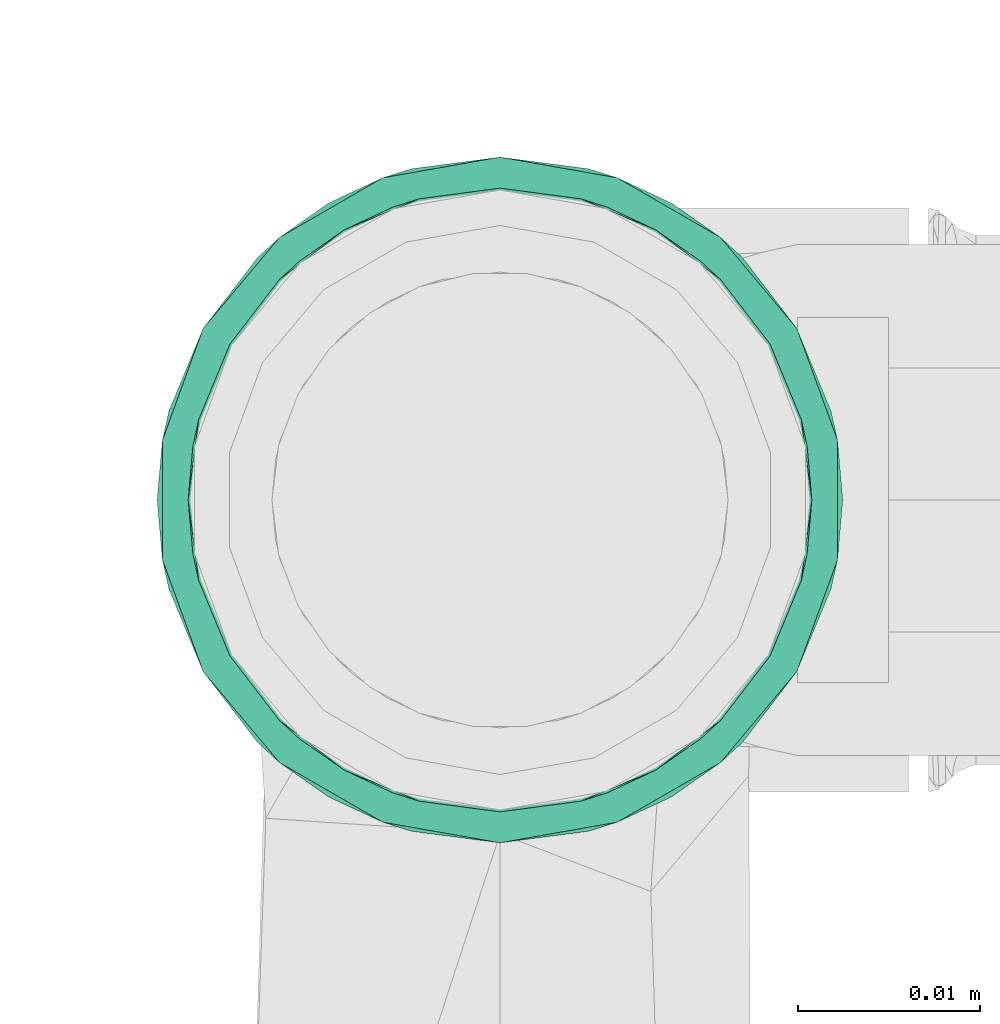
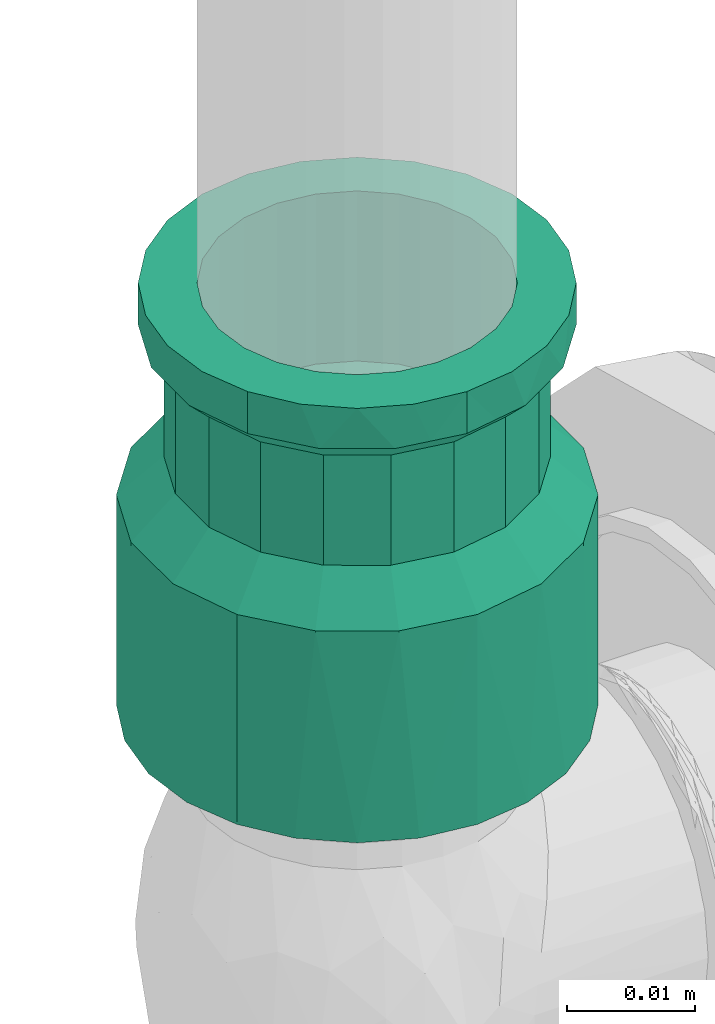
# One storey, part 363 of 589: 1 flow fitting.
"""IFC2X3 building model written with IfcOpenShell, lengths in millimetres."""

from ifc_helpers import new_model, entity, si_unit, converted_unit, derived_unit, direction, frame, origin, place, context, subcontext, project, spatial, faceted_brep, source, transform, mapped, material, type_object, type_shapes, element, save


model = new_model("IFC2X3")

# Units and contexts
model_context = context("Model", 3, precision=0.01, world=origin(), true_north=direction((6.123031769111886e-17, 1.0)))
body_context = subcontext(model_context, "Body", "Model", "MODEL_VIEW")
ifc_project = project(units=[si_unit("LENGTHUNIT", "METRE", prefix="MILLI"), si_unit("AREAUNIT", "SQUARE_METRE"), si_unit("VOLUMEUNIT", "CUBIC_METRE"), converted_unit("PLANEANGLEUNIT", "DEGREE", entity("IfcRatioMeasure", 0.017453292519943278), si_unit("PLANEANGLEUNIT", "RADIAN"), dimensions=[0, 0, 0, 0, 0, 0, 0]), si_unit("MASSUNIT", "GRAM", prefix="KILO"), derived_unit("MASSDENSITYUNIT", [(si_unit("MASSUNIT", "GRAM", prefix="KILO"), 1), (si_unit("LENGTHUNIT", "METRE"), -3)]), derived_unit("IONCONCENTRATIONUNIT", [(si_unit("MASSUNIT", "GRAM", prefix="KILO"), 1), (si_unit("LENGTHUNIT", "METRE"), -3)]), derived_unit("MOMENTOFINERTIAUNIT", [(si_unit("LENGTHUNIT", "METRE"), 4)]), si_unit("TIMEUNIT", "SECOND"), si_unit("FREQUENCYUNIT", "HERTZ"), si_unit("THERMODYNAMICTEMPERATUREUNIT", "DEGREE_CELSIUS"), derived_unit("THERMALTRANSMITTANCEUNIT", [(si_unit("MASSUNIT", "GRAM", prefix="KILO"), 1), (si_unit("THERMODYNAMICTEMPERATUREUNIT", "KELVIN"), -1), (si_unit("TIMEUNIT", "SECOND"), -3)]), derived_unit("THERMALCONDUCTANCEUNIT", [(si_unit("MASSUNIT", "GRAM", prefix="KILO"), 1), (si_unit("THERMODYNAMICTEMPERATUREUNIT", "KELVIN"), -1), (si_unit("TIMEUNIT", "SECOND"), -3), (si_unit("LENGTHUNIT", "METRE"), 1)]), derived_unit("VOLUMETRICFLOWRATEUNIT", [(si_unit("LENGTHUNIT", "METRE"), 3), (si_unit("TIMEUNIT", "SECOND"), -1)]), derived_unit("MASSFLOWRATEUNIT", [(si_unit("MASSUNIT", "GRAM", prefix="KILO"), 1), (si_unit("TIMEUNIT", "SECOND"), -1)]), derived_unit("ROTATIONALFREQUENCYUNIT", [(si_unit("TIMEUNIT", "SECOND"), -1)]), si_unit("ELECTRICCURRENTUNIT", "AMPERE"), si_unit("ELECTRICVOLTAGEUNIT", "VOLT"), si_unit("POWERUNIT", "WATT"), si_unit("FORCEUNIT", "NEWTON", prefix="KILO"), si_unit("ILLUMINANCEUNIT", "LUX"), si_unit("LUMINOUSFLUXUNIT", "LUMEN"), si_unit("LUMINOUSINTENSITYUNIT", "CANDELA"), derived_unit("USERDEFINED", [(si_unit("MASSUNIT", "GRAM", prefix="KILO"), -1), (si_unit("LENGTHUNIT", "METRE"), -2), (si_unit("TIMEUNIT", "SECOND"), 3), (si_unit("LUMINOUSFLUXUNIT", "LUMEN"), 1)]), derived_unit("USERDEFINED", [(si_unit("MASSUNIT", "GRAM", prefix="KILO"), 1), (si_unit("TIMEUNIT", "SECOND"), -3), (si_unit("LENGTHUNIT", "METRE"), 3), (si_unit("ELECTRICCURRENTUNIT", "AMPERE"), -2)]), derived_unit("SOUNDPOWERUNIT", [(si_unit("MASSUNIT", "GRAM", prefix="KILO"), 1), (si_unit("TIMEUNIT", "SECOND"), -3), (si_unit("LENGTHUNIT", "METRE"), 2)]), derived_unit("SOUNDPRESSUREUNIT", [(si_unit("MASSUNIT", "GRAM", prefix="KILO"), 1), (si_unit("LENGTHUNIT", "METRE"), -1), (si_unit("TIMEUNIT", "SECOND"), -2)]), derived_unit("LINEARVELOCITYUNIT", [(si_unit("LENGTHUNIT", "METRE"), 1), (si_unit("TIMEUNIT", "SECOND"), -1)]), si_unit("PRESSUREUNIT", "PASCAL"), derived_unit("USERDEFINED", [(si_unit("MASSUNIT", "GRAM", prefix="KILO"), 1), (si_unit("LENGTHUNIT", "METRE"), -2), (si_unit("TIMEUNIT", "SECOND"), -2)]), derived_unit("LINEARFORCEUNIT", [(si_unit("MASSUNIT", "GRAM", prefix="KILO"), 1), (si_unit("TIMEUNIT", "SECOND"), -2)]), derived_unit("PLANARFORCEUNIT", [(si_unit("MASSUNIT", "GRAM", prefix="KILO"), 1), (si_unit("LENGTHUNIT", "METRE"), -1), (si_unit("TIMEUNIT", "SECOND"), -2)]), derived_unit("SPECIFICHEATCAPACITYUNIT", [(si_unit("THERMODYNAMICTEMPERATUREUNIT", "KELVIN"), -1), (si_unit("LENGTHUNIT", "METRE"), 2), (si_unit("TIMEUNIT", "SECOND"), -2)]), derived_unit("HEATINGVALUEUNIT", [(si_unit("LENGTHUNIT", "METRE"), 2), (si_unit("TIMEUNIT", "SECOND"), -2)]), derived_unit("VAPORPERMEABILITYUNIT", [(si_unit("LENGTHUNIT", "METRE"), -1), (si_unit("TIMEUNIT", "SECOND"), 1)]), derived_unit("DYNAMICVISCOSITYUNIT", [(si_unit("MASSUNIT", "GRAM", prefix="KILO"), 1), (si_unit("TIMEUNIT", "SECOND"), -1), (si_unit("LENGTHUNIT", "METRE"), -1)]), derived_unit("THERMALEXPANSIONCOEFFICIENTUNIT", [(si_unit("THERMODYNAMICTEMPERATUREUNIT", "KELVIN"), -1)]), derived_unit("MODULUSOFELASTICITYUNIT", [(si_unit("MASSUNIT", "GRAM", prefix="KILO"), 1), (si_unit("LENGTHUNIT", "METRE"), -1), (si_unit("TIMEUNIT", "SECOND"), -2)]), derived_unit("ISOTHERMALMOISTURECAPACITYUNIT", [(si_unit("LENGTHUNIT", "METRE"), 3), (si_unit("MASSUNIT", "GRAM", prefix="KILO"), -1)]), derived_unit("MOISTUREDIFFUSIVITYUNIT", [(si_unit("TIMEUNIT", "SECOND"), -1), (si_unit("LENGTHUNIT", "METRE"), 2)])], contexts=[model_context])

# Site, building, storey
site_placement = place(None, origin())
site = spatial("IfcSite", under=ifc_project, at=site_placement, Name="Default", CompositionType="ELEMENT")
building_placement = place(site_placement, origin())
building = spatial("IfcBuilding", under=site, at=building_placement, CompositionType="ELEMENT")
storey_placement = place(building_placement, frame((0.0, 0.0, 100.0)))
storey = spatial("IfcBuildingStorey", under=building, at=storey_placement, Name="TÉRREO", CompositionType="ELEMENT", Elevation=100.0)

# Flow fitting
ifc_material = material(Name="PVC Azul")
pipe_fitting_type = type_object("IfcPipeFittingType", Name="PVC Marrom Soldável_Luva com Bucha de Latão Aninhado_Rodrigo MEP:Luva com bucha de latão_20x1/2''_ 25x1/2''_ 25x3/4'' _ 32x1''", PredefinedType="NOTDEFINED", material=ifc_material)
shared_shape = source(origin(), body_context, "Body", "Brep", [
    faceted_brep([(0.0, 6.249999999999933, -10.825317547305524), (0.0, 13.2936074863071, -13.293607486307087), (0.0, 9.400000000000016, -16.28127759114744), (0.0, 8.838834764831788, -8.838834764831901), (0.0, 3.235238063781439, -12.074072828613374), (0.0, 16.281277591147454, -9.399999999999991), (0.0, 10.82531754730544, -6.250000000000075), (0.0, 12.074072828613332, -3.2352380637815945), (0.0, 18.159405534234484, -4.865798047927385), (0.0, 12.5, 0.0), (0.0, 18.8, 0.0), (0.0, 12.074072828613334, 3.2352380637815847), (0.0, 18.159405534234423, 4.8657980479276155), (0.0, 10.825317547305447, 6.250000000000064), (0.0, 16.281277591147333, 9.400000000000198), (0.0, 8.838834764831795, 8.838834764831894), (0.0, 13.293607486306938, 13.29360748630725), (0.0, 6.249999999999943, 10.825317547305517), (0.0, 9.399999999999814, 16.281277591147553), (0.0, 3.23523806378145, 12.07407282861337), (0.0, 4.865798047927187, 18.159405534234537), (0.0, 0.0, 12.5), (0.0, 0.0, 18.8), (0.0, -3.2352380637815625, 12.074072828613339), (0.0, -4.865798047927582, 18.159405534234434), (0.0, -6.2500000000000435, 10.825317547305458), (0.0, -9.400000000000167, 16.28127759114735), (0.0, -8.838834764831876, 8.838834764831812), (0.0, -13.29360748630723, 13.293607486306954), (0.0, -10.825317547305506, 6.249999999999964), (0.0, -16.281277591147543, 9.399999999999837), (0.0, -18.159405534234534, 4.865798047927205), (0.0, -12.074072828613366, 3.2352380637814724), (0.0, -18.8, 0.0), (0.0, -12.5, 0.0), (0.0, -18.15940553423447, -4.865798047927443), (0.0, -12.074072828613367, -3.2352380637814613), (0.0, -16.281277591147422, -9.400000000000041), (0.0, -10.825317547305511, -6.249999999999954), (0.0, -13.293607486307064, -13.293607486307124), (0.0, -8.838834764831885, -8.838834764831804), (0.0, -9.399999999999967, -16.281277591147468), (0.0, -6.250000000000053, -10.825317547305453), (0.0, -4.86579804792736, -18.159405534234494), (0.0, -3.2352380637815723, -12.074072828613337), (0.0, 0.0, -18.8), (0.0, 0.0, -12.5), (0.0, 4.865798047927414, -18.15940553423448), (20.0, -18.233021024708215, 3.2152355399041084), (20.0, -17.66604204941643, 6.4304710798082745), (20.0, -14.400961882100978, 12.08520983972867), (20.0, -11.899800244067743, 14.183636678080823), (20.0, -16.0335019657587, 9.257840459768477), (20.0, -3.2625216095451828, 18.514749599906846), (20.0, -6.330580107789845, 17.39840655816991), (20.0, -18.8, 0.0), (20.0, -9.398638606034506, 16.282063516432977), (20.0, 17.667654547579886, 6.4260394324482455), (20.0, 6.334944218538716, 17.39681801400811), (20.0, 9.402722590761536, 16.279705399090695), (20.0, 3.267165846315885, 18.513930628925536), (20.0, 11.903357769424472, 14.180651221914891), (20.0, 14.403992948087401, 12.081597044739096), (20.0, 18.8, 0.0), (20.0, 16.03582374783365, 9.253818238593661), (20.0, 0.002322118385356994, 18.51434011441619), (20.0, 17.66765454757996, -6.426039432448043), (20.0, 14.403992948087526, -12.081597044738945), (20.0, 11.903357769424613, -14.180651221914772), (20.0, 16.035823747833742, -9.253818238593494), (20.0, 3.2671658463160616, -18.513930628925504), (20.0, 6.334944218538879, -17.39681801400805), (20.0, -18.233021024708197, -3.2152355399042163), (20.0, 9.402722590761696, -16.2797053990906), (20.0, -3.2625216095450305, -18.514749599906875), (20.0, -6.330580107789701, -17.398406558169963), (20.0, -9.398638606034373, -16.282063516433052), (20.0, -11.899800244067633, -14.183636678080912), (20.0, -17.66604204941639, -6.43047107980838), (20.0, -16.033501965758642, -9.257840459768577), (20.0, -14.400961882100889, -12.085209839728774), (20.0, 0.0023221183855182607, -18.51434011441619), (23.699999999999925, -15.09999999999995, 0.0), (23.69999999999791, -14.19050976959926, 5.16134018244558), (23.699999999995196, -2.6241598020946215, 14.870231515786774), (23.699999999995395, -5.088173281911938, 13.97297617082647), (23.699999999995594, -7.552186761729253, 13.075720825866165), (23.699999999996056, -9.560675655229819, 11.38977837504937), (23.699999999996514, -11.569164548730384, 9.703835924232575), (23.699999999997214, -12.879837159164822, 7.432588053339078), (23.699999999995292, -0.0018651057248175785, 14.870560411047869), (23.69999999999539, 2.620429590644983, 14.870889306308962), (23.699999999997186, 11.566730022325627, 9.706737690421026), (23.699999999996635, 9.557818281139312, 11.392176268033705), (23.699999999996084, 7.548906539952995, 13.077614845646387), (23.699999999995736, 5.084668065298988, 13.974252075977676), (23.699999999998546, 14.189214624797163, 5.164899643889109), (23.699999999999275, 14.644607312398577, 2.582449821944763), (23.69999999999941, 14.732236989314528, 2.0855177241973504), (23.700000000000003, 15.099999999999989, 0.0), (23.699999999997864, 12.877972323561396, 7.4358186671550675), (23.69999999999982, 14.644607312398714, -2.5824498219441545), (23.699999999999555, 14.18921462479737, -5.164899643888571), (23.699999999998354, 2.620429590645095, -14.87088930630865), (23.699999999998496, 5.084668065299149, -13.97425207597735), (23.69999999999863, 7.548906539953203, -13.077614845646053), (23.69999999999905, 11.566730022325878, -9.706737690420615), (23.69999999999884, 9.557818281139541, -11.392176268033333), (23.6999999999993, -14.190509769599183, -5.1613401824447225), (23.699999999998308, -0.0018651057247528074, -14.870560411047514), (23.699999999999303, 12.877972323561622, -7.435818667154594), (23.699999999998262, -2.6241598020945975, -14.870231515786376), (23.699999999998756, -11.569164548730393, -9.703835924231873), (23.699999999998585, -9.56067565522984, -11.389778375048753), (23.69999999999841, -7.552186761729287, -13.075720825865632), (23.699999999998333, -5.088173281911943, -13.972976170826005), (23.69999999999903, -12.879837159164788, -7.432588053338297), (34.20000000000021, 15.099999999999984, 0.0), (34.20000000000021, 14.732236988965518, -2.0855177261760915), (34.20000000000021, 14.189214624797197, -5.164899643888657), (34.20000000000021, 7.548906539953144, -13.077614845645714), (34.20000000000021, 11.566730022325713, -9.706737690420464), (34.20000000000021, 9.55781828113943, -11.39217626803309), (34.20000000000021, 12.877972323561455, -7.43581866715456), (34.20000000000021, 5.084668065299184, -13.974252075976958), (34.20000000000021, 2.620429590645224, -14.870889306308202), (34.20000000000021, -0.0018651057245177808, -14.870560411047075), (34.20000000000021, -2.6241598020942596, -14.870231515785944), (34.20000000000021, -7.552186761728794, -13.075720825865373), (34.20000000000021, -5.0881732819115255, -13.97297617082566), (34.20000000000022, -11.56916454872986, -9.70383592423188), (34.200000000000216, -9.560675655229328, -11.389778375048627), (34.20000000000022, -14.19050976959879, -5.161340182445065), (34.20000000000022, -12.879837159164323, -7.432588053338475), (34.20000000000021, -15.100000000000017, 0.0), (34.199999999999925, -14.190509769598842, 5.161340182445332), (34.19999999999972, -11.569164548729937, 9.703835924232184), (34.199999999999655, -9.56067565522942, 11.389778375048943), (34.19999999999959, -7.552186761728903, 13.0757208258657), (34.199999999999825, -12.879837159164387, 7.432588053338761), (34.19999999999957, -5.08817328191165, 13.972976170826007), (34.19999999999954, -2.624159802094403, 14.87023151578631), (34.19999999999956, -0.0018651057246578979, 14.870560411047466), (34.19999999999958, 2.6204295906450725, 14.870889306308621), (34.199999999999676, 7.548906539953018, 13.077614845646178), (34.199999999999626, 5.084668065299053, 13.974252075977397), (34.20000000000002, 14.18921462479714, 5.164899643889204), (34.20000000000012, 14.644607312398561, 2.582449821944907), (34.19999999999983, 11.566730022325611, 9.706737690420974), (34.199999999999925, 12.877972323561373, 7.435818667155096), (34.199999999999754, 9.557818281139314, 11.392176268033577), (36.200000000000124, 16.068580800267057, 5.848992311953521), (36.199999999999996, 16.584290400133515, 2.9244961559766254), (36.20000000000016, 16.698266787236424, 2.2781566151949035), (36.20000000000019, 17.099999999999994, 0.0), (36.20000000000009, 14.583664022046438, 8.420695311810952), (36.20000000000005, 13.098747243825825, 10.992398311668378), (36.200000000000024, 10.823754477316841, 12.90107378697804), (36.2, 8.548761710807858, 14.809749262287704), (36.19999999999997, 2.9675063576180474, 16.840543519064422), (36.19999999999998, 5.758134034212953, 15.825146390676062), (36.19999999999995, -2.9717306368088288, 16.839798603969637), (36.19999999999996, -0.0021121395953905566, 16.84017106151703), (36.199999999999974, -8.55247639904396, 14.807604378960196), (36.19999999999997, -5.762103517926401, 15.823701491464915), (36.20000000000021, -17.100000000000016, 0.0), (36.2000000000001, -16.070047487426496, 5.844961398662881), (36.20000000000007, -14.585775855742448, 8.417036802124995), (36.200000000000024, -13.101504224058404, 10.989112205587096), (36.2, -10.826990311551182, 12.898358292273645), (36.20000000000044, -16.07004748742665, -5.844961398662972), (36.20000000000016, 2.9675063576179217, -16.84054351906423), (36.200000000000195, -0.0021121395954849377, -16.84017106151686), (36.20000000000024, -2.9717306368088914, -16.839798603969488), (36.200000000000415, -14.58577585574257, -8.417036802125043), (36.20000000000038, -13.10150422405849, -10.989112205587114), (36.20000000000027, -5.7621035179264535, -15.823701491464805), (36.20000000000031, -8.552476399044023, -14.807604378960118), (36.20000000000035, -10.826990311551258, -12.898358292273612), (36.20000000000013, 5.758134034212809, -15.825146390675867), (36.2000000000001, 8.548761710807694, -14.809749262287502), (36.200000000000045, 16.58429040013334, -2.924496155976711), (36.200000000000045, 16.068580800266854, -5.848992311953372), (36.20000000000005, 14.583664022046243, -8.420695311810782), (36.20000000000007, 13.098747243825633, -10.992398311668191), (36.20000000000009, 10.823754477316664, -12.901073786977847), (40.200000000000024, -6.2500000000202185, -10.825317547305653), (40.200000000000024, -12.091525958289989, -12.091525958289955), (40.200000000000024, -8.550000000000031, -14.809034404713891), (40.200000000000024, -8.838834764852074, -8.838834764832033), (40.200000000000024, -3.2352380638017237, -12.074072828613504), (40.200000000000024, -14.809034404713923, -8.549999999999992), (40.200000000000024, -10.825317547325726, -6.250000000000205), (40.200000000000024, -12.074072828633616, -3.235238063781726), (40.200000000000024, -16.517331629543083, -4.4258056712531), (40.200000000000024, -12.500000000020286, 0.0), (40.200000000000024, -17.100000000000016, 0.0), (40.200000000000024, -12.074072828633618, 3.2352380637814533), (40.200000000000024, -16.51733162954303, 4.42580567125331), (40.200000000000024, -10.825317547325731, 6.2499999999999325), (40.200000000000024, -14.809034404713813, 8.550000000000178), (40.200000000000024, -8.83883476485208, 8.838834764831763), (40.200000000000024, -12.091525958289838, 12.091525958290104), (40.200000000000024, -6.250000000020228, 10.825317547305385), (40.200000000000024, -8.549999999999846, 14.809034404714), (40.200000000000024, -3.235238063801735, 12.074072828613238), (40.200000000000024, -4.425805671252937, 16.51733162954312), (40.200000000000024, 0.0, 12.49999999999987), (40.200000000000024, 0.0, 17.1), (40.200000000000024, 3.235238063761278, 12.07407282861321), (40.200000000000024, 4.425805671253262, 16.51733162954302), (40.200000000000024, 6.249999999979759, 10.825317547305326), (40.200000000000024, 8.550000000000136, 14.809034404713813), (40.200000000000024, 8.838834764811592, 8.838834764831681), (40.200000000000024, 12.091525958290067, 12.091525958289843), (40.200000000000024, 10.825317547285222, 6.249999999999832), (40.200000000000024, 14.809034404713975, 8.549999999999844), (40.200000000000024, 16.517331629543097, 4.425805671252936), (40.200000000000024, 12.07407282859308, 3.2352380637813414), (40.200000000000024, 17.099999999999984, 0.0), (40.200000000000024, 12.499999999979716, 0.0), (40.200000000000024, 16.517331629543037, -4.425805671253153), (40.200000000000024, 12.074072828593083, -3.2352380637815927), (40.200000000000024, 14.809034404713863, -8.550000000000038), (40.200000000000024, 10.825317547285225, -6.250000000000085), (40.200000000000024, 12.09152595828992, -12.09152595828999), (40.200000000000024, 8.838834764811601, -8.838834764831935), (40.200000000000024, 8.549999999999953, -14.80903440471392), (40.200000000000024, 6.249999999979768, -10.825317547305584), (40.200000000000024, 4.425805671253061, -16.517331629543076), (40.200000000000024, 3.2352380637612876, -12.074072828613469), (40.200000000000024, 0.0, -17.1), (40.200000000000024, 0.0, -12.500000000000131), (40.200000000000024, -4.425805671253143, -16.51733162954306), (24.0, 0.0, -12.500000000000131), (24.0, 3.2352380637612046, -12.074072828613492), (24.0, 6.2499999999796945, -10.825317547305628), (24.0, 8.838834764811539, -8.838834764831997), (24.0, 10.825317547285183, -6.250000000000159), (24.0, 12.07407282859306, -3.235238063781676), (24.0, 12.499999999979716, 0.0), (24.0, 12.074072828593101, 3.235238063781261), (24.0, 10.82531754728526, 6.24999999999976), (24.0, 8.83883476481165, 8.83883476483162), (24.0, 6.249999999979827, 10.82531754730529), (24.0, 3.235238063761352, 12.07407282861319), (24.0, 0.0, 12.49999999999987), (24.0, -3.2352380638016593, 12.074072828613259), (24.0, -6.250000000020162, 10.825317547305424), (24.0, -8.838834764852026, 8.838834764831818), (24.0, -10.825317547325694, 6.249999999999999), (24.0, -12.074072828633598, 3.235238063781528), (24.0, -12.500000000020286, 0.0), (24.0, -12.07407282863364, -3.2352380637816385), (24.0, -10.825317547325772, -6.250000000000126), (24.0, -8.838834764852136, -8.83883476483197), (24.0, -6.250000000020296, -10.825317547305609), (24.0, -3.23523806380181, -12.074072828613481), (16.200000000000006, 12.5, 0.0), (16.200000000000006, 12.074072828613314, 3.2352380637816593), (16.200000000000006, 10.825317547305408, 6.250000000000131), (16.200000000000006, 6.2499999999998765, 10.825317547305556), (16.200000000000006, 8.838834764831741, 8.83883476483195), (16.200000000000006, 3.2352380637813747, 12.07407282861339), (16.200000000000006, 0.0, 12.5), (16.200000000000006, -3.235238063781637, 12.074072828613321), (16.200000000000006, -6.250000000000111, 10.825317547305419), (16.200000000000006, -8.838834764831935, 8.838834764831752), (16.200000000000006, -12.074072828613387, 3.235238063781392), (16.200000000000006, -10.825317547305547, 6.249999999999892), (16.200000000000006, -12.5, 0.0), (16.200000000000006, -12.074072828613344, -3.2352380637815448), (16.200000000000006, -10.825317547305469, -6.2500000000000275), (16.200000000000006, -6.24999999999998, -10.825317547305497), (16.200000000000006, -8.838834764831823, -8.838834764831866), (16.200000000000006, -3.2352380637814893, -12.07407282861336), (16.200000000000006, 0.0, -12.5), (16.200000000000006, 3.2352380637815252, -12.07407282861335), (16.200000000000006, 6.250000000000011, -10.82531754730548), (16.200000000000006, 8.83883476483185, -8.838834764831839), (16.200000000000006, 12.074072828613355, -3.2352380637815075), (16.200000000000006, 10.825317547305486, -6.249999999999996)], [[[0, 1, 2]], [[3, 1, 0]], [[4, 0, 2]], [[1, 3, 5]], [[5, 3, 6]], [[5, 6, 7]], [[8, 5, 7]], [[9, 8, 7]], [[10, 8, 9]], [[10, 9, 11]], [[12, 10, 11]], [[12, 11, 13]], [[14, 12, 13]], [[14, 13, 15]], [[15, 16, 14]], [[15, 17, 16]], [[18, 16, 17]], [[19, 18, 17]], [[18, 19, 20]], [[21, 20, 19]], [[22, 20, 21]], [[21, 23, 22]], [[24, 22, 23]], [[25, 24, 23]], [[24, 25, 26]], [[25, 27, 26]], [[27, 28, 26]], [[28, 27, 29]], [[28, 29, 30]], [[30, 29, 31]], [[31, 29, 32]], [[33, 31, 32]], [[32, 34, 33]], [[33, 34, 35]], [[34, 36, 35]], [[37, 35, 36]], [[37, 36, 38]], [[39, 37, 38]], [[40, 39, 38]], [[40, 41, 39]], [[42, 41, 40]], [[43, 41, 42]], [[42, 44, 43]], [[43, 44, 45]], [[46, 45, 44]], [[46, 4, 47]], [[45, 46, 47]], [[2, 47, 4]], [[48, 49, 31]], [[28, 50, 51]], [[50, 30, 49, 52]], [[53, 24, 54]], [[30, 31, 49]], [[55, 48, 33]], [[26, 54, 24]], [[51, 56, 26]], [[30, 50, 28]], [[14, 57, 12]], [[58, 59, 18]], [[26, 56, 54]], [[58, 18, 20]], [[22, 24, 53]], [[51, 26, 28]], [[20, 60, 58]], [[16, 61, 62]], [[12, 57, 63]], [[33, 48, 31]], [[57, 14, 62, 64]], [[12, 63, 10]], [[18, 61, 16]], [[22, 53, 65, 60]], [[14, 16, 62]], [[59, 61, 18]], [[22, 60, 20]], [[8, 63, 66]], [[1, 67, 68]], [[67, 5, 66, 69]], [[70, 47, 71]], [[5, 8, 66]], [[8, 10, 63]], [[5, 67, 1]], [[72, 55, 33]], [[2, 73, 71]], [[45, 47, 70]], [[43, 74, 75]], [[75, 76, 41]], [[76, 77, 41]], [[37, 78, 35]], [[79, 78, 37, 80]], [[72, 33, 35]], [[80, 39, 77]], [[35, 78, 72]], [[68, 73, 2]], [[45, 70, 81, 74]], [[68, 2, 1]], [[2, 71, 47]], [[37, 39, 80]], [[41, 77, 39]], [[45, 74, 43]], [[75, 41, 43]], [[48, 82, 83]], [[84, 54, 85]], [[86, 51, 87]], [[88, 52, 89]], [[84, 53, 54]], [[86, 56, 51]], [[83, 49, 48]], [[88, 50, 52]], [[85, 56, 86]], [[48, 55, 82]], [[52, 49, 89]], [[87, 51, 50]], [[90, 53, 84]], [[89, 49, 83]], [[85, 54, 56]], [[87, 50, 88]], [[91, 60, 65]], [[92, 61, 93]], [[94, 59, 58]], [[91, 65, 90]], [[94, 58, 95]], [[57, 96, 97]], [[63, 97, 98, 99]], [[96, 57, 64]], [[96, 64, 100]], [[92, 62, 61]], [[100, 62, 92]], [[60, 95, 58]], [[61, 59, 93]], [[100, 64, 62]], [[57, 97, 63]], [[93, 59, 94]], [[90, 65, 53]], [[95, 60, 91]], [[63, 101, 66]], [[101, 63, 99]], [[101, 102, 66]], [[103, 70, 104]], [[71, 73, 105]], [[68, 67, 106]], [[105, 73, 107]], [[69, 66, 102]], [[72, 78, 108]], [[104, 70, 71]], [[81, 103, 109]], [[110, 67, 69]], [[109, 74, 81]], [[69, 102, 110]], [[107, 73, 68]], [[68, 106, 107]], [[109, 111, 74]], [[112, 80, 113]], [[75, 74, 111]], [[106, 67, 110]], [[70, 103, 81]], [[114, 76, 115]], [[71, 105, 104]], [[79, 80, 112]], [[108, 78, 116]], [[77, 76, 114]], [[79, 112, 116]], [[116, 78, 79]], [[72, 82, 55]], [[113, 80, 77]], [[82, 72, 108]], [[77, 114, 113]], [[115, 76, 75]], [[75, 111, 115]], [[102, 101, 99, 117, 118, 119]], [[120, 105, 107, 106, 121, 122]], [[110, 102, 119, 123, 121, 106]], [[104, 105, 120, 124, 125, 103]], [[109, 103, 125, 126, 127, 111]], [[128, 114, 115, 111, 127, 129]], [[130, 112, 113, 114, 128, 131]], [[132, 108, 116, 112, 130, 133]], [[132, 134, 82, 108]], [[82, 134, 135, 83]], [[86, 87, 88, 136, 137, 138]], [[89, 83, 135, 139, 136, 88]], [[85, 86, 138, 140, 141, 84]], [[84, 141, 142, 143, 91, 90]], [[144, 94, 95, 91, 143, 145]], [[117, 99, 98, 97, 96, 146, 147]], [[146, 96, 100, 92, 148, 149]], [[148, 92, 93, 94, 144, 150]], [[151, 152, 153, 154, 117, 147, 146]], [[155, 151, 146, 149, 148, 156]], [[157, 156, 148, 150, 144, 158]], [[144, 145, 143, 159, 160, 158]], [[142, 141, 161, 162, 159, 143]], [[140, 138, 163, 164, 161, 141]], [[135, 134, 165, 166]], [[136, 139, 135, 166, 167, 168]], [[138, 137, 136, 168, 169, 163]], [[134, 132, 170, 165]], [[126, 125, 171, 172, 173, 127]], [[174, 170, 132, 133, 130, 175]], [[173, 176, 177, 128, 129, 127]], [[130, 131, 128, 177, 178, 175]], [[179, 171, 125, 124, 120, 180]], [[118, 117, 154, 181, 182, 119]], [[121, 123, 119, 182, 183, 184]], [[120, 122, 121, 184, 185, 180]], [[186, 187, 188]], [[189, 187, 186]], [[190, 186, 188]], [[187, 189, 191]], [[191, 189, 192]], [[191, 192, 193]], [[194, 191, 193]], [[195, 194, 193]], [[196, 194, 195]], [[196, 195, 197]], [[198, 196, 197]], [[198, 197, 199]], [[200, 198, 199]], [[200, 199, 201]], [[201, 202, 200]], [[201, 203, 202]], [[204, 202, 203]], [[205, 204, 203]], [[204, 205, 206]], [[207, 206, 205]], [[208, 206, 207]], [[207, 209, 208]], [[210, 208, 209]], [[211, 210, 209]], [[210, 211, 212]], [[211, 213, 212]], [[213, 214, 212]], [[214, 213, 215]], [[214, 215, 216]], [[216, 215, 217]], [[217, 215, 218]], [[219, 217, 218]], [[218, 220, 219]], [[219, 220, 221]], [[220, 222, 221]], [[223, 221, 222]], [[223, 222, 224]], [[225, 223, 224]], [[226, 225, 224]], [[226, 227, 225]], [[228, 227, 226]], [[229, 227, 228]], [[228, 230, 229]], [[229, 230, 231]], [[232, 231, 230]], [[232, 190, 233]], [[231, 232, 233]], [[188, 233, 190]], [[152, 151, 217]], [[214, 156, 157]], [[156, 216, 151, 155]], [[159, 210, 160]], [[216, 217, 151]], [[219, 154, 153, 152]], [[157, 158, 212]], [[157, 212, 214]], [[216, 156, 214]], [[164, 163, 204]], [[164, 204, 206]], [[212, 158, 160]], [[212, 160, 210]], [[208, 210, 159]], [[219, 152, 217]], [[206, 161, 164]], [[202, 169, 168]], [[198, 166, 165]], [[166, 200, 168, 167]], [[198, 165, 196]], [[204, 169, 202]], [[208, 159, 162, 161]], [[208, 161, 206]], [[200, 202, 168]], [[163, 169, 204]], [[200, 166, 198]], [[194, 165, 170]], [[187, 175, 178]], [[175, 191, 170, 174]], [[173, 233, 176]], [[191, 194, 170]], [[194, 196, 165]], [[188, 176, 233]], [[178, 177, 188]], [[191, 175, 187]], [[181, 219, 221]], [[179, 180, 227]], [[188, 177, 176]], [[179, 227, 229]], [[231, 233, 173]], [[178, 188, 187]], [[229, 171, 179]], [[225, 185, 184]], [[221, 182, 181]], [[182, 223, 184, 183]], [[223, 182, 221]], [[227, 185, 225]], [[231, 173, 172, 171]], [[231, 171, 229]], [[223, 225, 184]], [[180, 185, 227]], [[181, 154, 219]], [[234, 235, 236, 237, 238, 239, 240, 241, 242, 243, 244, 245, 246, 247, 248, 249, 250, 251, 252, 253, 254, 255, 256, 257]], [[240, 220, 218, 241]], [[258, 259, 11, 9]], [[241, 218, 215, 242]], [[259, 260, 13, 11]], [[244, 243, 213, 211]], [[261, 17, 15, 262]], [[215, 213, 243, 242]], [[15, 13, 260, 262]], [[245, 244, 211, 209]], [[263, 19, 17, 261]], [[207, 246, 245, 209]], [[263, 264, 21, 19]], [[247, 205, 203, 248]], [[265, 266, 25, 23]], [[248, 203, 201, 249]], [[266, 267, 27, 25]], [[251, 250, 199, 197]], [[268, 32, 29, 269]], [[201, 199, 250, 249]], [[29, 27, 267, 269]], [[252, 251, 197, 195]], [[270, 34, 32, 268]], [[247, 246, 207, 205]], [[21, 264, 265, 23]], [[252, 195, 193, 253]], [[270, 271, 36, 34]], [[253, 193, 192, 254]], [[271, 272, 38, 36]], [[256, 255, 189, 186]], [[273, 42, 40, 274]], [[192, 189, 255, 254]], [[40, 38, 272, 274]], [[257, 256, 186, 190]], [[275, 44, 42, 273]], [[232, 234, 257, 190]], [[275, 276, 46, 44]], [[235, 230, 228, 236]], [[277, 278, 0, 4]], [[236, 228, 226, 237]], [[278, 279, 3, 0]], [[239, 238, 224, 222]], [[280, 7, 6, 281]], [[226, 224, 238, 237]], [[6, 3, 279, 281]], [[240, 239, 222, 220]], [[258, 9, 7, 280]], [[235, 234, 232, 230]], [[46, 276, 277, 4]], [[276, 275, 273, 274, 272, 271, 270, 268, 269, 267, 266, 265, 264, 263, 261, 262, 260, 259, 258, 280, 281, 279, 278, 277]]]),
])
type_shapes(pipe_fitting_type, [shared_shape])
flow_fitting_placement = place(storey_placement, frame((-7250.812352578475, 1007.7159451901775, 922.2499978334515), z_axis=(1.0, 0.0, 0.0), x_axis=(0.0, 0.0, 1.0)))
element("IfcFlowFitting", 1, at=flow_fitting_placement, inside=storey, type_object=pipe_fitting_type, material=ifc_material, Name="PVC Marrom Soldável_Luva com Bucha de Latão Aninhado_Rodrigo MEP:Luva com bucha de latão_20x1/2''_ 25x1/2''_ 25x3/4'' _ 32x1''", ObjectType="PVC Marrom Soldável_Luva com Bucha de Latão Aninhado_Rodrigo MEP:Luva com bucha de latão_20x1/2''_ 25x1/2''_ 25x3/4'' _ 32x1''", context=body_context, shape_type="MappedRepresentation", body=[
    mapped(shared_shape, transform((0.0, 0.0, 0.0), scale=1.0)),
])

save(model, "model.ifc")
